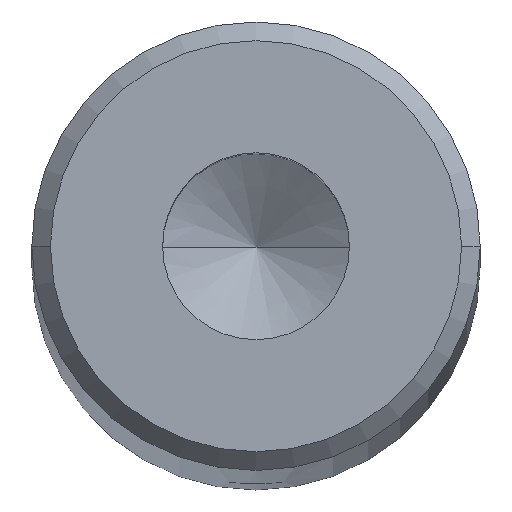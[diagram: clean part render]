
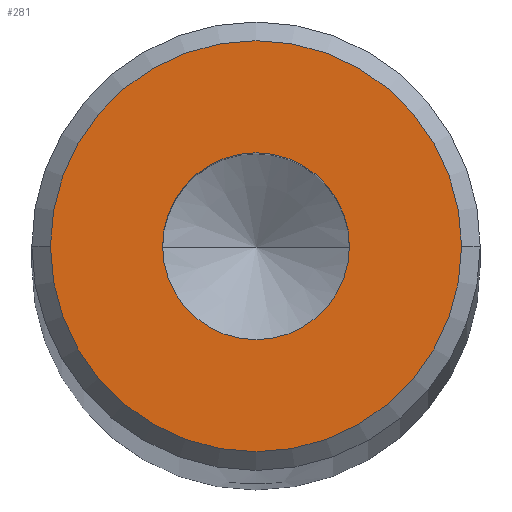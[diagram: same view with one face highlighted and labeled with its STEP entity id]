
A CAD part, top view. The second image highlights one B-rep face of the part: STEP entity #281.
In plain terms, the highlighted planar face has unit normal (0, 0, 1).
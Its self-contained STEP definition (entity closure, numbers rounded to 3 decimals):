
#33 = CARTESIAN_POINT ( 'NONE',  ( -2.5, 0., 300. ) ) ;
#56 = CARTESIAN_POINT ( 'NONE',  ( 0., 0., 300. ) ) ;
#62 = AXIS2_PLACEMENT_3D ( 'NONE', #321, #178, #542 ) ;
#77 = ORIENTED_EDGE ( 'NONE', *, *, #289, .T. ) ;
#82 = DIRECTION ( 'NONE',  ( 1., 0., 0. ) ) ;
#110 = ORIENTED_EDGE ( 'NONE', *, *, #576, .F. ) ;
#135 = CIRCLE ( 'NONE', #303, 5.5 ) ;
#141 = CARTESIAN_POINT ( 'NONE',  ( -5.5, 0., 300. ) ) ;
#178 = DIRECTION ( 'NONE',  ( 0., 0., 1. ) ) ;
#204 = VERTEX_POINT ( 'NONE', #531 ) ;
#214 = CARTESIAN_POINT ( 'NONE',  ( 0., 0., 300. ) ) ;
#218 = CIRCLE ( 'NONE', #524, 2.5 ) ;
#221 = DIRECTION ( 'NONE',  ( 1., 0., 0. ) ) ;
#233 = EDGE_CURVE ( 'NONE', #320, #473, #218, .T. ) ;
#264 = AXIS2_PLACEMENT_3D ( 'NONE', #454, #497, #82 ) ;
#281 = ADVANCED_FACE ( 'NONE', ( #480, #406 ), #372, .T. ) ;
#289 = EDGE_CURVE ( 'NONE', #204, #481, #375, .T. ) ;
#303 = AXIS2_PLACEMENT_3D ( 'NONE', #489, #588, #221 ) ;
#312 = CIRCLE ( 'NONE', #508, 2.5 ) ;
#320 = VERTEX_POINT ( 'NONE', #33 ) ;
#321 = CARTESIAN_POINT ( 'NONE',  ( 0., 0., 300. ) ) ;
#356 = DIRECTION ( 'NONE',  ( 1., 0., 0. ) ) ;
#358 = DIRECTION ( 'NONE',  ( 0., 0., 1. ) ) ;
#371 = EDGE_CURVE ( 'NONE', #481, #204, #135, .T. ) ;
#372 = PLANE ( 'NONE',  #62 ) ;
#375 = CIRCLE ( 'NONE', #264, 5.5 ) ;
#394 = EDGE_LOOP ( 'NONE', ( #597, #77 ) ) ;
#406 = FACE_OUTER_BOUND ( 'NONE', #394, .T. ) ;
#417 = CARTESIAN_POINT ( 'NONE',  ( 2.5, 0., 300. ) ) ;
#430 = DIRECTION ( 'NONE',  ( 1., 0., 0. ) ) ;
#439 = ORIENTED_EDGE ( 'NONE', *, *, #233, .F. ) ;
#454 = CARTESIAN_POINT ( 'NONE',  ( 0., 0., 300. ) ) ;
#473 = VERTEX_POINT ( 'NONE', #417 ) ;
#480 = FACE_BOUND ( 'NONE', #494, .T. ) ;
#481 = VERTEX_POINT ( 'NONE', #141 ) ;
#489 = CARTESIAN_POINT ( 'NONE',  ( 0., 0., 300. ) ) ;
#494 = EDGE_LOOP ( 'NONE', ( #110, #439 ) ) ;
#497 = DIRECTION ( 'NONE',  ( 0., 0., 1. ) ) ;
#508 = AXIS2_PLACEMENT_3D ( 'NONE', #56, #517, #430 ) ;
#517 = DIRECTION ( 'NONE',  ( 0., 0., 1. ) ) ;
#524 = AXIS2_PLACEMENT_3D ( 'NONE', #214, #358, #356 ) ;
#531 = CARTESIAN_POINT ( 'NONE',  ( 5.5, 0., 300. ) ) ;
#542 = DIRECTION ( 'NONE',  ( 1., 0., 0. ) ) ;
#576 = EDGE_CURVE ( 'NONE', #473, #320, #312, .T. ) ;
#588 = DIRECTION ( 'NONE',  ( 0., 0., 1. ) ) ;
#597 = ORIENTED_EDGE ( 'NONE', *, *, #371, .T. ) ;
